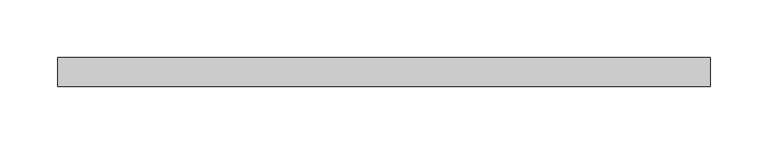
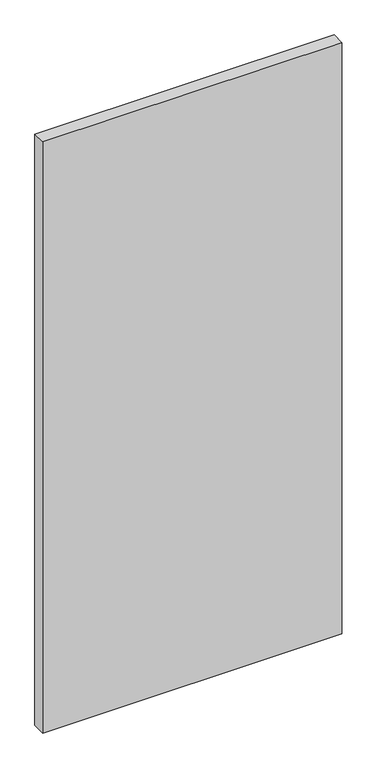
"""IFC4 building model written with IfcOpenShell, lengths in millimetres: plate geometry, Системная панель : С остеклением."""

from ifc_helpers import new_model, si_unit, origin, origin_with_axes, place, context, project, spatial, polyline, outline, extrude, source, transform, mapped, element, save


def plate_2721f8ce(model_context):
    return source(origin(), model_context, "Body", "SweptSolid", [
        extrude(outline(polyline([(281.3258602, 24.5), (-281.3258602, 24.5), (-281.3258602, 49.5), (281.3258602, 49.5), (281.3258602, 24.5)])), origin_with_axes(), (0.0, 0.0, 1.0), 1175.0),
    ])


if __name__ == "__main__":
    model = new_model("IFC4")
    model_context = context("Model", 3, world=origin())
    ifc_project = project(units=[si_unit("LENGTHUNIT", "METRE", prefix="MILLI")], contexts=[model_context])
    site = spatial("IfcSite", under=ifc_project)
    building = spatial("IfcBuilding", under=site)
    placement = place(None, origin())
    plate_shape = plate_2721f8ce(model_context)
    element("IfcPlate", 1, ObjectType="Системная панель : С остеклением", at=placement, inside=building, context=model_context, shape_type="MappedRepresentation", body=[
        mapped(plate_shape, transform((0.0, 0.0, 0.0), x_axis=(1.0, 0.0, 0.0), y_axis=(0.0, 1.0, 0.0), z_axis=(0.0, 0.0, 1.0))),
    ])
    save(model, "model.ifc")
